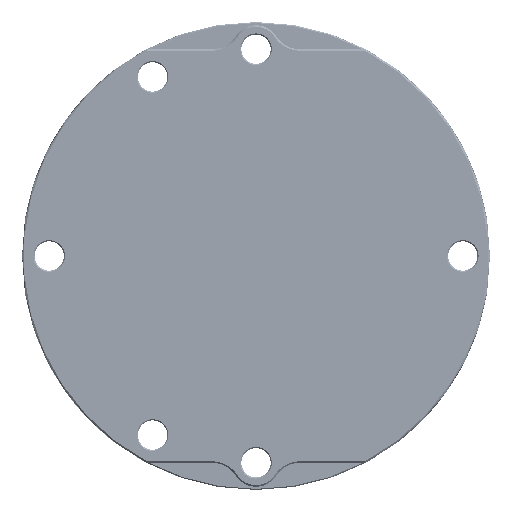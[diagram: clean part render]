
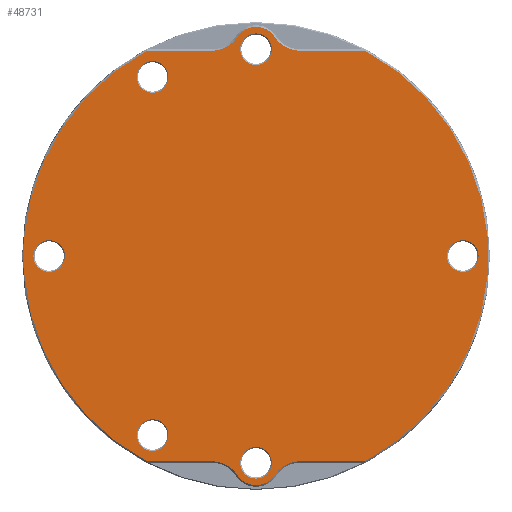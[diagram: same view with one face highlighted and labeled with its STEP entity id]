
A CAD part, front view. The second image highlights one B-rep face of the part: STEP entity #48731.
In plain terms, the highlighted planar face has unit normal (0, -1, 0).
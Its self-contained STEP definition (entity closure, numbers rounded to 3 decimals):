
#5224=CARTESIAN_POINT('',(-50.137,0.,-94.3));
#5226=CARTESIAN_POINT('',(-50.137,0.,94.3));
#5232=CARTESIAN_POINT('',(0.,0.,0.));
#5233=DIRECTION('',(0.,-1.,0.));
#5234=DIRECTION('',(-0.469,0.,0.883));
#5235=AXIS2_PLACEMENT_3D('',#5232,#5233,#5234);
#5237=CARTESIAN_POINT('',(50.137,0.,-94.3));
#5243=CARTESIAN_POINT('',(0.,0.,0.));
#5244=DIRECTION('',(0.,-1.,0.));
#5245=DIRECTION('',(0.469,0.,-0.883));
#5246=AXIS2_PLACEMENT_3D('',#5243,#5244,#5245);
#5252=CARTESIAN_POINT('',(50.137,0.,94.3));
#5335=CARTESIAN_POINT('',(95.,0.,0.));
#5336=DIRECTION('',(0.,1.,0.));
#5337=DIRECTION('',(-1.,0.,0.));
#5338=AXIS2_PLACEMENT_3D('',#5335,#5336,#5337);
#5340=CARTESIAN_POINT('',(95.,0.,0.));
#5341=DIRECTION('',(0.,1.,0.));
#5342=DIRECTION('',(1.,0.,0.));
#5343=AXIS2_PLACEMENT_3D('',#5340,#5341,#5342);
#5345=CARTESIAN_POINT('',(0.,0.,-95.));
#5346=DIRECTION('',(0.,1.,0.));
#5347=DIRECTION('',(1.,0.,0.));
#5348=AXIS2_PLACEMENT_3D('',#5345,#5346,#5347);
#5350=CARTESIAN_POINT('',(0.,0.,-95.));
#5351=DIRECTION('',(0.,1.,0.));
#5352=DIRECTION('',(-1.,0.,0.));
#5353=AXIS2_PLACEMENT_3D('',#5350,#5351,#5352);
#5355=CARTESIAN_POINT('',(-47.5,0.,-82.272));
#5356=DIRECTION('',(0.,1.,0.));
#5357=DIRECTION('',(1.,0.,0.));
#5358=AXIS2_PLACEMENT_3D('',#5355,#5356,#5357);
#5360=CARTESIAN_POINT('',(-47.5,0.,-82.272));
#5361=DIRECTION('',(0.,1.,0.));
#5362=DIRECTION('',(-1.,0.,0.));
#5363=AXIS2_PLACEMENT_3D('',#5360,#5361,#5362);
#5365=CARTESIAN_POINT('',(-95.,0.,0.));
#5366=DIRECTION('',(0.,1.,0.));
#5367=DIRECTION('',(1.,0.,0.));
#5368=AXIS2_PLACEMENT_3D('',#5365,#5366,#5367);
#5370=CARTESIAN_POINT('',(-95.,0.,0.));
#5371=DIRECTION('',(0.,1.,0.));
#5372=DIRECTION('',(-1.,0.,0.));
#5373=AXIS2_PLACEMENT_3D('',#5370,#5371,#5372);
#5375=CARTESIAN_POINT('',(-47.5,0.,82.272));
#5376=DIRECTION('',(0.,1.,0.));
#5377=DIRECTION('',(-1.,0.,0.));
#5378=AXIS2_PLACEMENT_3D('',#5375,#5376,#5377);
#5380=CARTESIAN_POINT('',(-47.5,0.,82.272));
#5381=DIRECTION('',(0.,1.,0.));
#5382=DIRECTION('',(1.,0.,0.));
#5383=AXIS2_PLACEMENT_3D('',#5380,#5381,#5382);
#5385=CARTESIAN_POINT('',(0.,0.,95.));
#5386=DIRECTION('',(0.,1.,0.));
#5387=DIRECTION('',(-1.,0.,0.));
#5388=AXIS2_PLACEMENT_3D('',#5385,#5386,#5387);
#5390=CARTESIAN_POINT('',(0.,0.,95.));
#5391=DIRECTION('',(0.,1.,0.));
#5392=DIRECTION('',(1.,0.,0.));
#5393=AXIS2_PLACEMENT_3D('',#5390,#5391,#5392);
#5395=DIRECTION('',(-1.,0.,0.));
#5396=VECTOR('',#5395,29.963);
#5397=CARTESIAN_POINT('',(-20.174,0.,
-94.3));
#5398=LINE('',#5397,#5396);
#5399=DIRECTION('',(-1.,0.,0.));
#5400=VECTOR('',#5399,29.963);
#5401=CARTESIAN_POINT('',(-20.174,0.,
94.3));
#5402=LINE('',#5401,#5400);
#5403=CARTESIAN_POINT('',(-20.174,0.,108.));
#5404=DIRECTION('',(0.,1.,0.));
#5405=DIRECTION('',(0.841,0.,-0.542));
#5406=AXIS2_PLACEMENT_3D('',#5403,#5404,#5405);
#5408=CARTESIAN_POINT('',(0.,0.,95.));
#5409=DIRECTION('',(0.,-1.,0.));
#5410=DIRECTION('',(0.841,0.,0.542));
#5411=AXIS2_PLACEMENT_3D('',#5408,#5409,#5410);
#5413=CARTESIAN_POINT('',(20.174,0.,108.));
#5414=DIRECTION('',(0.,1.,0.));
#5415=DIRECTION('',(0.,0.,-1.));
#5416=AXIS2_PLACEMENT_3D('',#5413,#5414,#5415);
#5418=DIRECTION('',(-1.,0.,0.));
#5419=VECTOR('',#5418,29.963);
#5420=CARTESIAN_POINT('',(50.137,0.,94.3));
#5421=LINE('',#5420,#5419);
#5422=DIRECTION('',(-1.,0.,0.));
#5423=VECTOR('',#5422,29.963);
#5424=CARTESIAN_POINT('',(50.137,0.,-94.3));
#5425=LINE('',#5424,#5423);
#5426=CARTESIAN_POINT('',(20.174,0.,-108.));
#5427=DIRECTION('',(0.,-1.,0.));
#5428=DIRECTION('',(0.,0.,1.));
#5429=AXIS2_PLACEMENT_3D('',#5426,#5427,#5428);
#5431=CARTESIAN_POINT('',(0.,0.,-95.));
#5432=DIRECTION('',(0.,1.,0.));
#5433=DIRECTION('',(0.841,0.,-0.542));
#5434=AXIS2_PLACEMENT_3D('',#5431,#5432,#5433);
#5436=CARTESIAN_POINT('',(-20.174,0.,-108.));
#5437=DIRECTION('',(0.,-1.,0.));
#5438=DIRECTION('',(0.841,0.,0.542));
#5439=AXIS2_PLACEMENT_3D('',#5436,#5437,#5438);
#37269=CARTESIAN_POINT('',(87.75,0.,0.));
#37270=CARTESIAN_POINT('',(102.25,0.,0.));
#37271=VERTEX_POINT('',#37269);
#37272=VERTEX_POINT('',#37270);
#37293=CARTESIAN_POINT('',(7.25,0.,-95.));
#37294=CARTESIAN_POINT('',(-7.25,0.,-95.));
#37295=VERTEX_POINT('',#37293);
#37296=VERTEX_POINT('',#37294);
#37301=CARTESIAN_POINT('',(-40.25,0.,-82.272));
#37302=CARTESIAN_POINT('',(-54.75,0.,-82.272));
#37303=VERTEX_POINT('',#37301);
#37304=VERTEX_POINT('',#37302);
#37325=CARTESIAN_POINT('',(-87.75,0.,0.));
#37326=CARTESIAN_POINT('',(-102.25,0.,0.));
#37327=VERTEX_POINT('',#37325);
#37328=VERTEX_POINT('',#37326);
#37369=CARTESIAN_POINT('',(-54.75,0.,82.272));
#37370=CARTESIAN_POINT('',(-40.25,0.,82.272));
#37371=VERTEX_POINT('',#37369);
#37372=VERTEX_POINT('',#37370);
#37393=CARTESIAN_POINT('',(-7.25,0.,95.));
#37394=CARTESIAN_POINT('',(7.25,0.,95.));
#37395=VERTEX_POINT('',#37393);
#37396=VERTEX_POINT('',#37394);
#37426=VERTEX_POINT('',#5224);
#37427=CARTESIAN_POINT('',(-20.174,0.,
-94.3));
#37428=VERTEX_POINT('',#37427);
#37433=CARTESIAN_POINT('',(-8.658,0.,-100.579));
#37434=VERTEX_POINT('',#37433);
#37437=CARTESIAN_POINT('',(8.658,0.,-100.579));
#37438=VERTEX_POINT('',#37437);
#37441=CARTESIAN_POINT('',(20.174,0.,-94.3));
#37442=VERTEX_POINT('',#37441);
#37443=VERTEX_POINT('',#5237);
#37445=VERTEX_POINT('',#5226);
#37449=CARTESIAN_POINT('',(-20.174,0.,
94.3));
#37450=VERTEX_POINT('',#37449);
#37451=CARTESIAN_POINT('',(-8.658,0.,100.579));
#37452=VERTEX_POINT('',#37451);
#37455=CARTESIAN_POINT('',(8.658,0.,100.579));
#37456=VERTEX_POINT('',#37455);
#37459=CARTESIAN_POINT('',(20.174,0.,94.3));
#37460=VERTEX_POINT('',#37459);
#37464=VERTEX_POINT('',#5252);
#48669=CARTESIAN_POINT('',(0.,0.,0.));
#48670=DIRECTION('',(0.,-1.,0.));
#48671=DIRECTION('',(-1.,0.,0.));
#48672=AXIS2_PLACEMENT_3D('',#48669,#48670,#48671);
#48673=PLANE('',#48672);
#48674=ORIENTED_EDGE('',*,*,#48532,.T.);
#48675=ORIENTED_EDGE('',*,*,#48550,.F.);
#48677=ORIENTED_EDGE('',*,*,#48676,.F.);
#48679=ORIENTED_EDGE('',*,*,#48678,.F.);
#48681=ORIENTED_EDGE('',*,*,#48680,.F.);
#48682=ORIENTED_EDGE('',*,*,#48659,.F.);
#48684=ORIENTED_EDGE('',*,*,#48683,.F.);
#48685=ORIENTED_EDGE('',*,*,#48562,.F.);
#48687=ORIENTED_EDGE('',*,*,#48686,.T.);
#48689=ORIENTED_EDGE('',*,*,#48688,.T.);
#48691=ORIENTED_EDGE('',*,*,#48690,.T.);
#48692=ORIENTED_EDGE('',*,*,#48518,.T.);
#48693=EDGE_LOOP('',(#48674,#48675,#48677,#48679,#48681,#48682,#48684,#48685,
#48687,#48689,#48691,#48692));
#48694=FACE_OUTER_BOUND('',#48693,.F.);
#48696=ORIENTED_EDGE('',*,*,#48695,.F.);
#48698=ORIENTED_EDGE('',*,*,#48697,.F.);
#48699=EDGE_LOOP('',(#48696,#48698));
#48700=FACE_BOUND('',#48699,.F.);
#48702=ORIENTED_EDGE('',*,*,#48701,.F.);
#48704=ORIENTED_EDGE('',*,*,#48703,.F.);
#48705=EDGE_LOOP('',(#48702,#48704));
#48706=FACE_BOUND('',#48705,.F.);
#48708=ORIENTED_EDGE('',*,*,#48707,.F.);
#48710=ORIENTED_EDGE('',*,*,#48709,.F.);
#48711=EDGE_LOOP('',(#48708,#48710));
#48712=FACE_BOUND('',#48711,.F.);
#48714=ORIENTED_EDGE('',*,*,#48713,.F.);
#48716=ORIENTED_EDGE('',*,*,#48715,.F.);
#48717=EDGE_LOOP('',(#48714,#48716));
#48718=FACE_BOUND('',#48717,.F.);
#48720=ORIENTED_EDGE('',*,*,#48719,.F.);
#48722=ORIENTED_EDGE('',*,*,#48721,.F.);
#48723=EDGE_LOOP('',(#48720,#48722));
#48724=FACE_BOUND('',#48723,.F.);
#48726=ORIENTED_EDGE('',*,*,#48725,.F.);
#48728=ORIENTED_EDGE('',*,*,#48727,.F.);
#48729=EDGE_LOOP('',(#48726,#48728));
#48730=FACE_BOUND('',#48729,.F.);
#48731=ADVANCED_FACE('',(#48694,#48700,#48706,#48712,#48718,#48724,#48730),
#48673,.T.);
#5236=CIRCLE('',#5235,106.8);
#5247=CIRCLE('',#5246,106.8);
#5339=CIRCLE('',#5338,7.25);
#5344=CIRCLE('',#5343,7.25);
#5349=CIRCLE('',#5348,7.25);
#5354=CIRCLE('',#5353,7.25);
#5359=CIRCLE('',#5358,7.25);
#5364=CIRCLE('',#5363,7.25);
#5369=CIRCLE('',#5368,7.25);
#5374=CIRCLE('',#5373,7.25);
#5379=CIRCLE('',#5378,7.25);
#5384=CIRCLE('',#5383,7.25);
#5389=CIRCLE('',#5388,7.25);
#5394=CIRCLE('',#5393,7.25);
#5407=CIRCLE('',#5406,13.7);
#5412=CIRCLE('',#5411,10.3);
#5417=CIRCLE('',#5416,13.7);
#5430=CIRCLE('',#5429,13.7);
#5435=CIRCLE('',#5434,10.3);
#5440=CIRCLE('',#5439,13.7);
#48518=EDGE_CURVE('',#37434,#37428,#5440,.T.);
#48532=EDGE_CURVE('',#37428,#37426,#5398,.T.);
#48550=EDGE_CURVE('',#37445,#37426,#5236,.T.);
#48562=EDGE_CURVE('',#37443,#37464,#5247,.T.);
#48659=EDGE_CURVE('',#37460,#37456,#5417,.T.);
#48676=EDGE_CURVE('',#37450,#37445,#5402,.T.);
#48678=EDGE_CURVE('',#37452,#37450,#5407,.T.);
#48680=EDGE_CURVE('',#37456,#37452,#5412,.T.);
#48683=EDGE_CURVE('',#37464,#37460,#5421,.T.);
#48686=EDGE_CURVE('',#37443,#37442,#5425,.T.);
#48688=EDGE_CURVE('',#37442,#37438,#5430,.T.);
#48690=EDGE_CURVE('',#37438,#37434,#5435,.T.);
#48695=EDGE_CURVE('',#37295,#37296,#5349,.T.);
#48697=EDGE_CURVE('',#37296,#37295,#5354,.T.);
#48701=EDGE_CURVE('',#37303,#37304,#5359,.T.);
#48703=EDGE_CURVE('',#37304,#37303,#5364,.T.);
#48707=EDGE_CURVE('',#37327,#37328,#5369,.T.);
#48709=EDGE_CURVE('',#37328,#37327,#5374,.T.);
#48713=EDGE_CURVE('',#37371,#37372,#5379,.T.);
#48715=EDGE_CURVE('',#37372,#37371,#5384,.T.);
#48719=EDGE_CURVE('',#37395,#37396,#5389,.T.);
#48721=EDGE_CURVE('',#37396,#37395,#5394,.T.);
#48725=EDGE_CURVE('',#37271,#37272,#5339,.T.);
#48727=EDGE_CURVE('',#37272,#37271,#5344,.T.);
